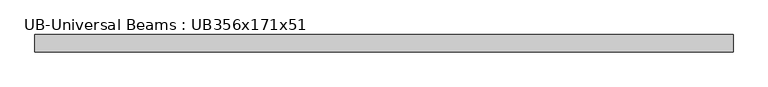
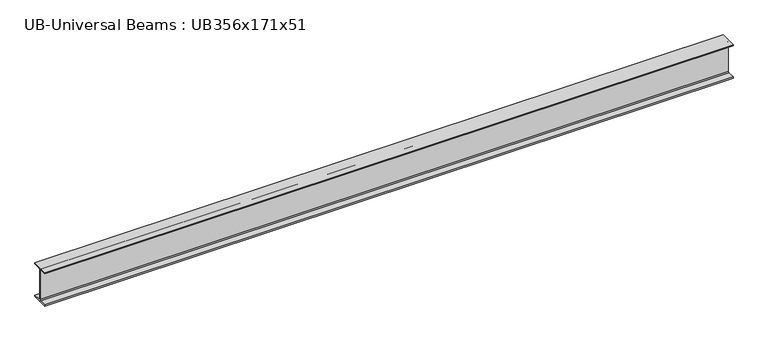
"""IFC4 building model written with IfcOpenShell, lengths in millimetres: beam geometry, UB-Universal Beams : UB356x171x51."""

from ifc_helpers import new_model, si_unit, point, frame, frame_2d, origin, place, context, project, spatial, polyline, circle_curve, trimmed, segment, composite_curve, outline, extrude, source, transform, mapped, element, save


def ub_universal_beams_ub356x171x51_7f80702c(model_context):
    return source(origin(), model_context, "Body", "SweptSolid", [
        extrude(outline(composite_curve([segment(polyline([(85.75, -166.0), (85.75, -177.5), (-85.75, -177.5), (-85.75, -166.0), (-13.9, -166.0)]), True, "CONTINUOUS"), segment(trimmed(circle_curve(frame_2d((-13.9, -155.8)), 10.2), [point((-13.9, -166.0))], [point((-3.7, -155.8))], True, "CARTESIAN"), True, "CONTINUOUS"), segment(polyline([(-3.7, -155.8), (-3.7, 155.8)]), True, "CONTINUOUS"), segment(trimmed(circle_curve(frame_2d((-13.9, 155.8)), 10.2), [point((-3.7, 155.8))], [point((-13.9, 166.0))], True, "CARTESIAN"), True, "CONTINUOUS"), segment(polyline([(-13.9, 166.0), (-85.75, 166.0), (-85.75, 177.5), (85.75, 177.5), (85.75, 166.0), (13.9, 166.0)]), True, "CONTINUOUS"), segment(trimmed(circle_curve(frame_2d((13.9, 155.8)), 10.2), [point((13.9, 166.0))], [point((3.7, 155.8))], True, "CARTESIAN"), True, "CONTINUOUS"), segment(polyline([(3.7, 155.8), (3.7, -155.8)]), True, "CONTINUOUS"), segment(trimmed(circle_curve(frame_2d((13.9, -155.8)), 10.2), [point((3.7, -155.8))], [point((13.9, -166.0))], True, "CARTESIAN"), True, "CONTINUOUS"), segment(polyline([(13.9, -166.0), (85.75, -166.0)]), True, "CONTINUOUS")], self_intersect=False)), frame((-3432.4, 0.0, 0.0), z_axis=(1.0, 0.0, 0.0), x_axis=(0.0, 1.0, 0.0)), (0.0, 0.0, 1.0), 6923.2),
    ])


if __name__ == "__main__":
    model = new_model("IFC4")
    model_context = context("Model", 3, world=origin())
    ifc_project = project(units=[si_unit("LENGTHUNIT", "METRE", prefix="MILLI")], contexts=[model_context])
    site = spatial("IfcSite", under=ifc_project)
    building = spatial("IfcBuilding", under=site)
    placement = place(None, origin())
    ub_universal_beams_ub356x171x51_shape = ub_universal_beams_ub356x171x51_7f80702c(model_context)
    element("IfcBeam", 1, ObjectType="UB-Universal Beams : UB356x171x51", at=placement, inside=building, context=model_context, shape_type="MappedRepresentation", body=[
        mapped(ub_universal_beams_ub356x171x51_shape, transform((0.0, 0.0, 0.0), x_axis=(1.0, 0.0, 0.0), y_axis=(0.0, 1.0, 0.0), z_axis=(0.0, 0.0, 1.0))),
    ])
    save(model, "model.ifc")
